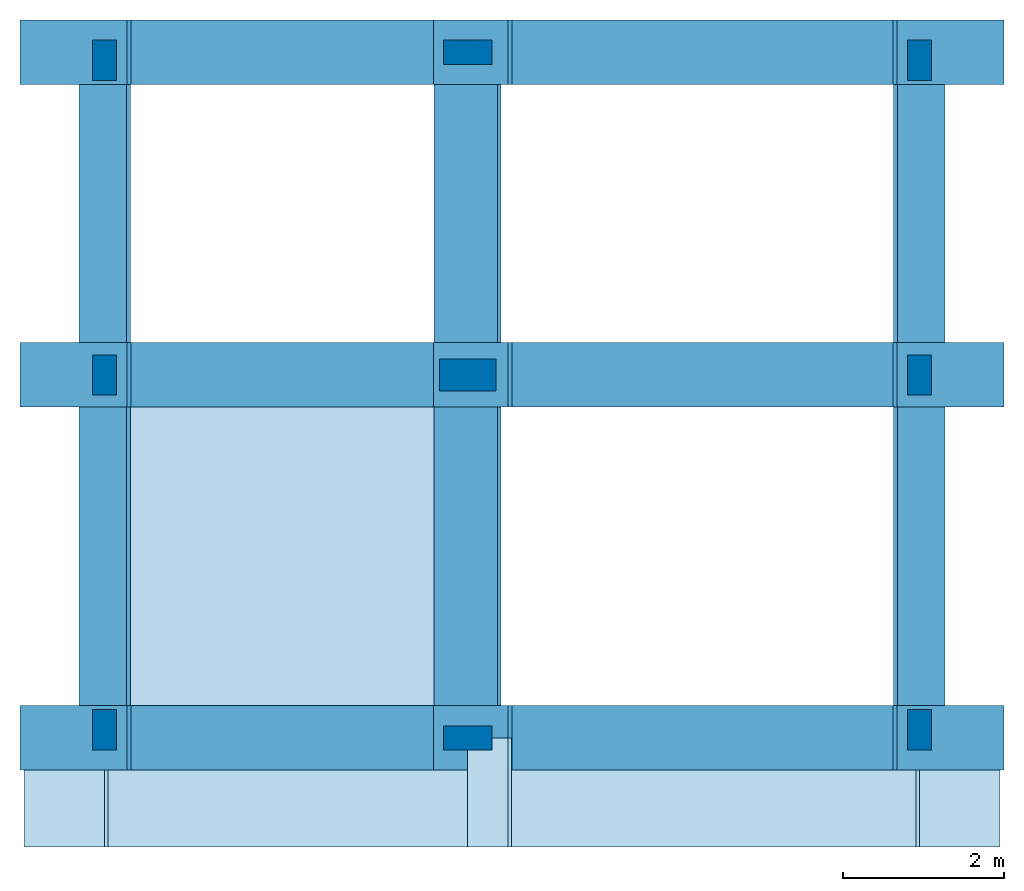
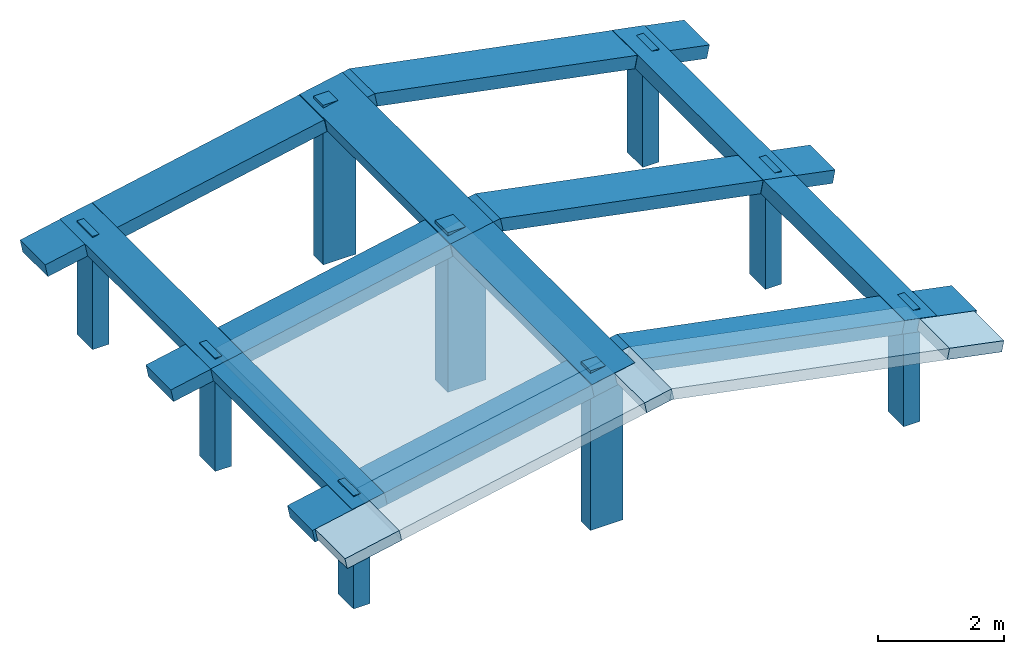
# One storey, incomplete: 21 beams, 9 columns, 6 slabs.
"""IFC2X3 building model written with IfcOpenShell, lengths in metres."""

from ifc_helpers import new_model, si_unit, direction, frame, origin, origin_2d_with_axis, place, context, project, spatial, polyline, rectangle, outline, extrude, shape, element, save


model = new_model("IFC2X3")

# Units and contexts
model_context = context("Model", 3, precision=0.0, world=origin(), true_north=direction((0.0, 1.0)))
plan_context = context("Plan", 3, precision=0.0, world=origin(), true_north=direction((0.0, 1.0)))
ifc_project = project(units=[si_unit("LENGTHUNIT", "METRE"), si_unit("AREAUNIT", "SQUARE_METRE"), si_unit("VOLUMEUNIT", "CUBIC_METRE"), si_unit("PLANEANGLEUNIT", "RADIAN"), si_unit("THERMODYNAMICTEMPERATUREUNIT", "DEGREE_CELSIUS"), si_unit("FORCEUNIT", "NEWTON"), si_unit("MASSUNIT", "GRAM", prefix="KILO")], contexts=[model_context, plan_context])

# Site, building, storey
placement = place(None, origin())
site = spatial("IfcSite", under=ifc_project, at=placement, Name="Default Site", CompositionType="ELEMENT")
building = spatial("IfcBuilding", under=site, at=placement, Name="Default Building", CompositionType="ELEMENT")
storey_placement = place(placement, frame((0.0, 0.0, 6.4), z_axis=(1.0, 0.0, 0.0), x_axis=(0.0, 0.0, 1.0)))
storey = spatial("IfcBuildingStorey", under=building, at=storey_placement, Name="Piano 2", CompositionType="ELEMENT", Elevation=6.4)

# Columns
column_1_placement = place(None, frame((0.0, 0.1, 5.4), z_axis=(0.0, 0.0, -1.0), x_axis=(-1.0, 0.0, 0.0)))
element("IfcColumn", 1, at=column_1_placement, inside=storey, Name="Pilastro:1 [Piano:2]", shapes=[
    shape(model_context, None, "SweptSolid", [extrude(rectangle(XDim=0.3, YDim=0.5, at=origin_2d_with_axis()), origin(), (0.0, 0.0, 1.0), 2.2)]),
])
column_2_placement = place(None, frame((4.5, 0.0, 6.3), z_axis=(0.0, 0.0, -1.0), x_axis=(-1.0, 0.0, 0.0)))
element("IfcColumn", 2, at=column_2_placement, inside=storey, Name="Pilastro:2 [Piano:2]", shapes=[
    shape(model_context, None, "SweptSolid", [extrude(rectangle(XDim=0.6, YDim=0.3, at=origin_2d_with_axis()), origin(), (0.0, 0.0, 1.0), 3.1)]),
])
for number, where, z_axis, x_axis, name in (
    (3, (10.1, 0.1, 5.4), (0.0, 0.0, -1.0), (-1.0, 0.0, 0.0), "Pilastro:3 [Piano:2]"),
    (4, (0.0, 4.5, 5.4), (0.0, 0.0, -1.0), (-1.0, 0.0, 0.0), "Pilastro:4 [Piano:2]"),
):
    element("IfcColumn", number, at=place(None, frame(where, z_axis=z_axis, x_axis=x_axis)), inside=storey, Name=name, shapes=[
        shape(model_context, None, "SweptSolid", [extrude(rectangle(XDim=0.3, YDim=0.5, at=origin_2d_with_axis()), origin(), (0.0, 0.0, 1.0), 2.2)]),
    ])
column_3_placement = place(None, frame((4.5, 4.5, 6.3), z_axis=(0.0, 0.0, -1.0), x_axis=(-1.0, 0.0, 0.0)))
element("IfcColumn", 5, at=column_3_placement, inside=storey, Name="Pilastro:5 [Piano:2]", shapes=[
    shape(model_context, None, "SweptSolid", [extrude(rectangle(XDim=0.7, YDim=0.4, at=origin_2d_with_axis()), origin(), (0.0, 0.0, 1.0), 3.1)]),
])
for number, where, z_axis, x_axis, name in (
    (6, (10.1, 4.5, 5.4), (0.0, 0.0, -1.0), (-1.0, 0.0, 0.0), "Pilastro:6 [Piano:2]"),
    (7, (0.0, 8.4, 5.4), (0.0, 0.0, -1.0), (-1.0, 0.0, 0.0), "Pilastro:7 [Piano:2]"),
):
    element("IfcColumn", number, at=place(None, frame(where, z_axis=z_axis, x_axis=x_axis)), inside=storey, Name=name, shapes=[
        shape(model_context, None, "SweptSolid", [extrude(rectangle(XDim=0.3, YDim=0.5, at=origin_2d_with_axis()), origin(), (0.0, 0.0, 1.0), 2.2)]),
    ])
column_4_placement = place(None, frame((4.5, 8.5, 6.3), z_axis=(0.0, 0.0, -1.0), x_axis=(-1.0, 0.0, 0.0)))
element("IfcColumn", 8, at=column_4_placement, inside=storey, Name="Pilastro:8 [Piano:2]", shapes=[
    shape(model_context, None, "SweptSolid", [extrude(rectangle(XDim=0.6, YDim=0.3, at=origin_2d_with_axis()), origin(), (0.0, 0.0, 1.0), 3.1)]),
])
column_5_placement = place(None, frame((10.1, 8.4, 5.4), z_axis=(0.0, 0.0, -1.0), x_axis=(-1.0, 0.0, 0.0)))
element("IfcColumn", 9, at=column_5_placement, inside=storey, Name="Pilastro:9 [Piano:2]", shapes=[
    shape(model_context, None, "SweptSolid", [extrude(rectangle(XDim=0.3, YDim=0.5, at=origin_2d_with_axis()), origin(), (0.0, 0.0, 1.0), 2.2)]),
])

# Beams
beam_1_placement = place(None, frame((-0.3, 8.5, 5.212525), z_axis=(0.980581, 0.0, 0.196116), x_axis=(0.0, 1.0, 0.0)))
element("IfcBeam", 10, at=beam_1_placement, inside=storey, Name="Trave:1 [Piano:2]", shapes=[
    shape(model_context, None, "SweptSolid", [extrude(rectangle(XDim=0.8, YDim=0.25, at=origin_2d_with_axis()), origin(), (0.0, 0.0, 1.0), 5.30298)]),
])
beam_2_placement = place(None, frame((4.975948, 8.5, 6.277336), z_axis=(0.981314, 0.0, -0.192414), x_axis=(0.0, 1.0, 0.0)))
element("IfcBeam", 11, at=beam_2_placement, inside=storey, Name="Trave:2 [Piano:2]", shapes=[
    shape(model_context, None, "SweptSolid", [extrude(rectangle(XDim=0.8, YDim=0.25, at=origin_2d_with_axis()), origin(), (0.0, 0.0, 1.0), 5.527337)]),
])
beam_3_placement = place(None, frame((-0.3, 4.5, 5.212525), z_axis=(0.980581, 0.0, 0.196116), x_axis=(0.0, 1.0, 0.0)))
element("IfcBeam", 12, at=beam_3_placement, inside=storey, Name="Trave:3 [Piano:2]", shapes=[
    shape(model_context, None, "SweptSolid", [extrude(rectangle(XDim=0.8, YDim=0.25, at=origin_2d_with_axis()), origin(), (0.0, 0.0, 1.0), 5.30298)]),
])
beam_4_placement = place(None, frame((4.975948, 4.5, 6.277336), z_axis=(0.981314, 0.0, -0.192414), x_axis=(0.0, 1.0, 0.0)))
element("IfcBeam", 13, at=beam_4_placement, inside=storey, Name="Trave:4 [Piano:2]", shapes=[
    shape(model_context, None, "SweptSolid", [extrude(rectangle(XDim=0.8, YDim=0.25, at=origin_2d_with_axis()), origin(), (0.0, 0.0, 1.0), 5.527337)]),
])
beam_5_placement = place(None, frame((-0.3, 0.0, 5.212525), z_axis=(0.980581, 0.0, 0.196116), x_axis=(0.0, 1.0, 0.0)))
element("IfcBeam", 14, at=beam_5_placement, inside=storey, Name="Trave:5 [Piano:2]", shapes=[
    shape(model_context, None, "SweptSolid", [extrude(rectangle(XDim=0.8, YDim=0.25, at=origin_2d_with_axis()), origin(), (0.0, 0.0, 1.0), 5.30298)]),
])
beam_6_placement = place(None, frame((4.975948, 0.0, 6.277336), z_axis=(0.981314, 0.0, -0.192414), x_axis=(0.0, 1.0, 0.0)))
element("IfcBeam", 15, at=beam_6_placement, inside=storey, Name="Trave:6 [Piano:2]", shapes=[
    shape(model_context, None, "SweptSolid", [extrude(rectangle(XDim=0.8, YDim=0.25, at=origin_2d_with_axis()), origin(), (0.0, 0.0, 1.0), 5.527337)]),
])
beam_7_placement = place(None, frame((0.0, -0.4, 5.277297), z_axis=(0.0, 1.0, 0.0), x_axis=(-0.981627, 0.0, -0.190809)))
element("IfcBeam", 16, at=beam_7_placement, inside=storey, Name="Trave:7 [Piano:2]", shapes=[
    shape(model_context, None, "SweptSolid", [extrude(rectangle(XDim=0.6, YDim=0.25, at=origin_2d_with_axis()), origin(), (0.0, 0.0, 1.0), 5.3)]),
])
for number, where, z_axis, x_axis, name in (
    (17, (0.0, 4.1, 5.277297), (0.0, 1.0, 0.0), (-0.981627, 0.0, -0.190809), "Trave:8 [Piano:2]"),
    (18, (10.1, 4.1, 5.277297), (0.0, 1.0, 0.0), (-0.981627, 0.0, 0.190809), "Trave:9 [Piano:2]"),
):
    element("IfcBeam", number, at=place(None, frame(where, z_axis=z_axis, x_axis=x_axis)), inside=storey, Name=name, shapes=[
        shape(model_context, None, "SweptSolid", [extrude(rectangle(XDim=0.6, YDim=0.25, at=origin_2d_with_axis()), origin(), (0.0, 0.0, 1.0), 4.8)]),
    ])
beam_8_placement = place(None, frame((10.1, -0.4, 5.277297), z_axis=(0.0, 1.0, 0.0), x_axis=(-0.981627, 0.0, 0.190809)))
element("IfcBeam", 19, at=beam_8_placement, inside=storey, Name="Trave:10 [Piano:2]", shapes=[
    shape(model_context, None, "SweptSolid", [extrude(rectangle(XDim=0.6, YDim=0.25, at=origin_2d_with_axis()), origin(), (0.0, 0.0, 1.0), 5.3)]),
])
beam_9_placement = place(None, frame((4.5, -0.4, 6.177297), z_axis=(0.0, 1.0, 0.0), x_axis=(-0.981627, 0.0, -0.190809)))
element("IfcBeam", 20, at=beam_9_placement, inside=storey, Name="Trave:11 [Piano:2]", shapes=[
    shape(model_context, None, "SweptSolid", [extrude(rectangle(XDim=0.8, YDim=0.25, at=origin_2d_with_axis()), origin(), (0.0, 0.0, 1.0), 5.3)]),
])
beam_10_placement = place(None, frame((4.5, 4.1, 6.177297), z_axis=(0.0, 1.0, 0.0), x_axis=(-0.981627, 0.0, -0.190809)))
element("IfcBeam", 21, at=beam_10_placement, inside=storey, Name="Trave:12 [Piano:2]", shapes=[
    shape(model_context, None, "SweptSolid", [extrude(rectangle(XDim=0.8, YDim=0.25, at=origin_2d_with_axis()), origin(), (0.0, 0.0, 1.0), 4.8)]),
])
for number, where, z_axis, x_axis, name in (
    (22, (4.1, 8.5, 6.092525), (0.980581, 0.0, 0.196116), (0.0, 1.0, 0.0), "Trave:13 [Piano:2]"),
    (23, (4.1, 4.5, 6.092525), (0.980581, 0.0, 0.196116), (0.0, 1.0, 0.0), "Trave:14 [Piano:2]"),
    (24, (4.1, 0.0, 6.092525), (0.980581, 0.0, 0.196116), (0.0, 1.0, 0.0), "Trave:15 [Piano:2]"),
):
    element("IfcBeam", number, at=place(None, frame(where, z_axis=z_axis, x_axis=x_axis)), inside=storey, Name=name, shapes=[
        shape(model_context, None, "SweptSolid", [extrude(rectangle(XDim=0.8, YDim=0.25, at=origin_2d_with_axis()), origin(), (0.0, 0.0, 1.0), 0.942824)]),
    ])
for number, where, z_axis, x_axis, name in (
    (25, (-1.024515, 8.5, 5.067622), (0.980581, 0.0, 0.196116), (0.0, 1.0, 0.0), "Trave:16 [Piano:2]"),
    (26, (-1.024515, 4.5, 5.067622), (0.980581, 0.0, 0.196116), (0.0, 1.0, 0.0), "Trave:17 [Piano:2]"),
    (27, (-1.024515, 0.0, 5.067622), (0.980581, 0.0, 0.196116), (0.0, 1.0, 0.0), "Trave:18 [Piano:2]"),
    (28, (9.8, 0.0, 5.332525), (0.980581, 0.0, -0.196116), (0.0, 1.0, 0.0), "Trave:19 [Piano:2]"),
    (29, (9.8, 4.5, 5.332525), (0.980581, 0.0, -0.196116), (0.0, 1.0, 0.0), "Trave:20 [Piano:2]"),
    (30, (9.8, 8.5, 5.332525), (0.980581, 0.0, -0.196116), (0.0, 1.0, 0.0), "Trave:21 [Piano:2]"),
):
    element("IfcBeam", number, at=place(None, frame(where, z_axis=z_axis, x_axis=x_axis)), inside=storey, Name=name, shapes=[
        shape(model_context, None, "SweptSolid", [extrude(rectangle(XDim=0.8, YDim=0.25, at=origin_2d_with_axis()), origin(), (0.0, 0.0, 1.0), 1.350745)]),
    ])

# Slabs
slab_1_placement = place(None, frame((2.25, 2.25, 5.85), z_axis=(0.196116, 0.0, -0.980581), x_axis=(0.0, 1.0, 0.0)))
element("IfcSlab", 31, at=slab_1_placement, inside=storey, Name="Solaio:1 [Piano:2]", PredefinedType="FLOOR", shapes=[
    shape(model_context, None, "SweptSolid", [extrude(outline(polyline([(-2.25, 2.294559), (-2.25, -2.294559), (2.25, -2.294559), (2.25, 2.294559)])), origin(), (0.0, 0.0, 1.0), 0.21)]),
])
slab_2_placement = place(None, frame((2.25, -0.675, 5.85), z_axis=(0.196116, 0.0, -0.980581), x_axis=(0.0, 1.0, 0.0)))
element("IfcSlab", 32, at=slab_2_placement, inside=storey, Name="Balcone:1 [Piano:2]", PredefinedType="FLOOR", shapes=[
    shape(model_context, None, "SweptSolid", [extrude(outline(polyline([(0.675, -2.294559), (0.675, 2.294559), (-0.675, 2.294559), (-0.675, -2.294559)])), origin(), (0.0, 0.0, 1.0), 0.21)]),
])
slab_3_placement = place(None, frame((7.55, -0.675, 5.9), z_axis=(-0.192414, 0.0, -0.981314), x_axis=(0.0, -1.0, 0.0)))
element("IfcSlab", 33, at=slab_3_placement, inside=storey, Name="Balcone:2 [Piano:2]", PredefinedType="FLOOR", shapes=[
    shape(model_context, None, "SweptSolid", [extrude(outline(polyline([(-0.675, 2.598557), (-0.675, -2.598557), (0.675, -2.598557), (0.675, 2.598557)])), origin(), (0.0, 0.0, 1.0), 0.21)]),
])
slab_4_placement = place(None, frame((4.75, -0.675, 6.35), z_axis=(0.196116, 0.0, -0.980581), x_axis=(0.0, 1.0, 0.0)))
element("IfcSlab", 34, at=slab_4_placement, inside=storey, Name="Balcone:3 [Piano:2]", PredefinedType="FLOOR", shapes=[
    shape(model_context, None, "SweptSolid", [extrude(outline(polyline([(0.675, -0.254951), (0.675, 0.254951), (-0.675, 0.254951), (-0.675, -0.254951)])), origin(), (0.0, 0.0, 1.0), 0.21)]),
])
slab_5_placement = place(None, frame((-0.5, -0.675, 5.3), z_axis=(0.196116, 0.0, -0.980581), x_axis=(0.0, 1.0, 0.0)))
element("IfcSlab", 35, at=slab_5_placement, inside=storey, Name="Balcone:4 [Piano:2]", PredefinedType="FLOOR", shapes=[
    shape(model_context, None, "SweptSolid", [extrude(outline(polyline([(0.675, -0.509902), (0.675, 0.509902), (-0.675, 0.509902), (-0.675, -0.509902)])), origin(), (0.0, 0.0, 1.0), 0.21)]),
])
slab_6_placement = place(None, frame((10.6, -0.675, 5.3), z_axis=(-0.196116, 0.0, -0.980581), x_axis=(0.0, -1.0, 0.0)))
element("IfcSlab", 36, at=slab_6_placement, inside=storey, Name="Balcone:5 [Piano:2]", PredefinedType="FLOOR", shapes=[
    shape(model_context, None, "SweptSolid", [extrude(outline(polyline([(-0.675, 0.509902), (-0.675, -0.509902), (0.675, -0.509902), (0.675, 0.509902)])), origin(), (0.0, 0.0, 1.0), 0.21)]),
])

save(model, "model.ifc")
